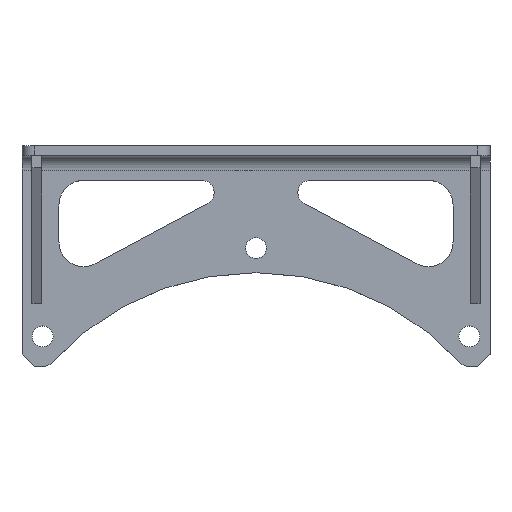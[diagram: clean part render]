
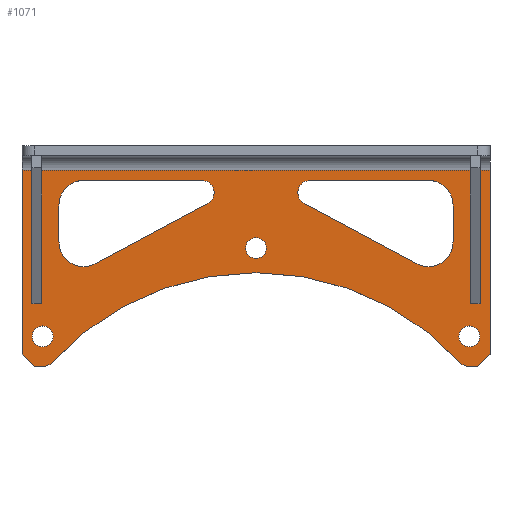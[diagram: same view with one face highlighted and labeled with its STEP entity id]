
A CAD part, top view. The second image highlights one B-rep face of the part: STEP entity #1071.
In plain terms, the highlighted planar face has unit normal (0, 0, 1).
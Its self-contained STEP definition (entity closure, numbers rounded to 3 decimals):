
#148=FACE_BOUND('',#257,.T.);
#149=FACE_BOUND('',#258,.T.);
#150=FACE_BOUND('',#259,.T.);
#151=FACE_BOUND('',#260,.T.);
#152=FACE_BOUND('',#261,.T.);
#159=PLANE('',#1167);
#198=FACE_OUTER_BOUND('',#256,.T.);
#256=EDGE_LOOP('',(#838,#839,#840,#841,#842,#843,#844,#845,#846,#847));
#257=EDGE_LOOP('',(#848,#849,#850,#851,#852,#853));
#258=EDGE_LOOP('',(#854,#855,#856,#857,#858,#859));
#259=EDGE_LOOP('',(#860));
#260=EDGE_LOOP('',(#861));
#261=EDGE_LOOP('',(#862));
#320=LINE('',#1586,#423);
#334=LINE('',#1636,#437);
#335=LINE('',#1640,#438);
#336=LINE('',#1642,#439);
#337=LINE('',#1644,#440);
#338=LINE('',#1648,#441);
#339=LINE('',#1650,#442);
#340=LINE('',#1652,#443);
#341=LINE('',#1653,#444);
#342=LINE('',#1656,#445);
#343=LINE('',#1660,#446);
#344=LINE('',#1664,#447);
#345=LINE('',#1670,#448);
#346=LINE('',#1674,#449);
#347=LINE('',#1677,#450);
#423=VECTOR('',#1281,10.);
#437=VECTOR('',#1321,10.);
#438=VECTOR('',#1326,10.);
#439=VECTOR('',#1327,10.);
#440=VECTOR('',#1328,10.);
#441=VECTOR('',#1331,10.);
#442=VECTOR('',#1332,10.);
#443=VECTOR('',#1333,10.);
#444=VECTOR('',#1334,10.);
#445=VECTOR('',#1335,10.);
#446=VECTOR('',#1338,10.);
#447=VECTOR('',#1341,10.);
#448=VECTOR('',#1346,10.);
#449=VECTOR('',#1349,10.);
#450=VECTOR('',#1352,10.);
#532=CIRCLE('',#1168,112.5);
#533=CIRCLE('',#1169,5.);
#534=CIRCLE('',#1170,10.);
#535=CIRCLE('',#1171,10.);
#536=CIRCLE('',#1172,10.);
#537=CIRCLE('',#1173,5.);
#538=CIRCLE('',#1174,10.);
#539=CIRCLE('',#1175,4.25);
#540=CIRCLE('',#1176,4.25);
#541=CIRCLE('',#1177,4.25);
#569=VERTEX_POINT('',#1583);
#570=VERTEX_POINT('',#1585);
#593=VERTEX_POINT('',#1635);
#594=VERTEX_POINT('',#1639);
#595=VERTEX_POINT('',#1641);
#596=VERTEX_POINT('',#1643);
#597=VERTEX_POINT('',#1645);
#598=VERTEX_POINT('',#1647);
#599=VERTEX_POINT('',#1649);
#600=VERTEX_POINT('',#1651);
#601=VERTEX_POINT('',#1654);
#602=VERTEX_POINT('',#1655);
#603=VERTEX_POINT('',#1657);
#604=VERTEX_POINT('',#1659);
#605=VERTEX_POINT('',#1661);
#606=VERTEX_POINT('',#1663);
#607=VERTEX_POINT('',#1666);
#608=VERTEX_POINT('',#1667);
#609=VERTEX_POINT('',#1669);
#610=VERTEX_POINT('',#1671);
#611=VERTEX_POINT('',#1673);
#612=VERTEX_POINT('',#1675);
#613=VERTEX_POINT('',#1678);
#614=VERTEX_POINT('',#1680);
#615=VERTEX_POINT('',#1682);
#664=EDGE_CURVE('',#569,#570,#320,.T.);
#689=EDGE_CURVE('',#570,#593,#334,.T.);
#691=EDGE_CURVE('',#594,#569,#335,.T.);
#692=EDGE_CURVE('',#594,#595,#336,.T.);
#693=EDGE_CURVE('',#596,#595,#337,.T.);
#694=EDGE_CURVE('',#596,#597,#532,.T.);
#695=EDGE_CURVE('',#598,#597,#338,.T.);
#696=EDGE_CURVE('',#598,#599,#339,.T.);
#697=EDGE_CURVE('',#600,#599,#340,.T.);
#698=EDGE_CURVE('',#593,#600,#341,.T.);
#699=EDGE_CURVE('',#601,#602,#342,.T.);
#700=EDGE_CURVE('',#602,#603,#533,.T.);
#701=EDGE_CURVE('',#603,#604,#343,.T.);
#702=EDGE_CURVE('',#604,#605,#534,.T.);
#703=EDGE_CURVE('',#605,#606,#344,.T.);
#704=EDGE_CURVE('',#606,#601,#535,.T.);
#705=EDGE_CURVE('',#607,#608,#536,.T.);
#706=EDGE_CURVE('',#608,#609,#345,.T.);
#707=EDGE_CURVE('',#609,#610,#537,.T.);
#708=EDGE_CURVE('',#610,#611,#346,.T.);
#709=EDGE_CURVE('',#611,#612,#538,.T.);
#710=EDGE_CURVE('',#612,#607,#347,.T.);
#711=EDGE_CURVE('',#613,#613,#539,.T.);
#712=EDGE_CURVE('',#614,#614,#540,.T.);
#713=EDGE_CURVE('',#615,#615,#541,.T.);
#838=ORIENTED_EDGE('',*,*,#689,.F.);
#839=ORIENTED_EDGE('',*,*,#664,.F.);
#840=ORIENTED_EDGE('',*,*,#691,.F.);
#841=ORIENTED_EDGE('',*,*,#692,.T.);
#842=ORIENTED_EDGE('',*,*,#693,.F.);
#843=ORIENTED_EDGE('',*,*,#694,.T.);
#844=ORIENTED_EDGE('',*,*,#695,.F.);
#845=ORIENTED_EDGE('',*,*,#696,.T.);
#846=ORIENTED_EDGE('',*,*,#697,.F.);
#847=ORIENTED_EDGE('',*,*,#698,.F.);
#848=ORIENTED_EDGE('',*,*,#699,.T.);
#849=ORIENTED_EDGE('',*,*,#700,.T.);
#850=ORIENTED_EDGE('',*,*,#701,.T.);
#851=ORIENTED_EDGE('',*,*,#702,.T.);
#852=ORIENTED_EDGE('',*,*,#703,.T.);
#853=ORIENTED_EDGE('',*,*,#704,.T.);
#854=ORIENTED_EDGE('',*,*,#705,.T.);
#855=ORIENTED_EDGE('',*,*,#706,.T.);
#856=ORIENTED_EDGE('',*,*,#707,.T.);
#857=ORIENTED_EDGE('',*,*,#708,.T.);
#858=ORIENTED_EDGE('',*,*,#709,.T.);
#859=ORIENTED_EDGE('',*,*,#710,.T.);
#860=ORIENTED_EDGE('',*,*,#711,.T.);
#861=ORIENTED_EDGE('',*,*,#712,.T.);
#862=ORIENTED_EDGE('',*,*,#713,.T.);
#1071=ADVANCED_FACE('',(#198,#148,#149,#150,#151,#152),#159,.T.);
#1167=AXIS2_PLACEMENT_3D('',#1638,#1324,#1325);
#1168=AXIS2_PLACEMENT_3D('',#1646,#1329,#1330);
#1169=AXIS2_PLACEMENT_3D('',#1658,#1336,#1337);
#1170=AXIS2_PLACEMENT_3D('',#1662,#1339,#1340);
#1171=AXIS2_PLACEMENT_3D('',#1665,#1342,#1343);
#1172=AXIS2_PLACEMENT_3D('',#1668,#1344,#1345);
#1173=AXIS2_PLACEMENT_3D('',#1672,#1347,#1348);
#1174=AXIS2_PLACEMENT_3D('',#1676,#1350,#1351);
#1175=AXIS2_PLACEMENT_3D('',#1679,#1353,#1354);
#1176=AXIS2_PLACEMENT_3D('',#1681,#1355,#1356);
#1177=AXIS2_PLACEMENT_3D('',#1683,#1357,#1358);
#1281=DIRECTION('',(0.,1.,0.));
#1321=DIRECTION('',(1.,0.,0.));
#1324=DIRECTION('center_axis',(0.,0.,1.));
#1325=DIRECTION('ref_axis',(0.,-1.,0.));
#1326=DIRECTION('',(-0.707,0.707,0.));
#1327=DIRECTION('',(1.,0.,0.));
#1328=DIRECTION('',(-0.913,-0.409,0.));
#1329=DIRECTION('center_axis',(0.,0.,-1.));
#1330=DIRECTION('ref_axis',(-0.749,0.662,0.));
#1331=DIRECTION('',(-0.913,0.409,0.));
#1332=DIRECTION('',(1.,0.,0.));
#1333=DIRECTION('',(-0.707,-0.707,0.));
#1334=DIRECTION('',(0.,-1.,0.));
#1335=DIRECTION('',(1.,0.,0.));
#1336=DIRECTION('center_axis',(0.,0.,-1.));
#1337=DIRECTION('ref_axis',(0.,1.,0.));
#1338=DIRECTION('',(-0.882,-0.472,0.));
#1339=DIRECTION('center_axis',(0.,0.,-1.));
#1340=DIRECTION('ref_axis',(0.472,-0.882,0.));
#1341=DIRECTION('',(0.,1.,0.));
#1342=DIRECTION('center_axis',(0.,0.,-1.));
#1343=DIRECTION('ref_axis',(-1.,0.,0.));
#1344=DIRECTION('center_axis',(0.,0.,-1.));
#1345=DIRECTION('ref_axis',(1.,0.,0.));
#1346=DIRECTION('',(-0.882,0.472,0.));
#1347=DIRECTION('center_axis',(0.,0.,-1.));
#1348=DIRECTION('ref_axis',(-0.472,-0.882,0.));
#1349=DIRECTION('',(1.,0.,0.));
#1350=DIRECTION('center_axis',(0.,0.,-1.));
#1351=DIRECTION('ref_axis',(0.,1.,0.));
#1352=DIRECTION('',(0.,-1.,0.));
#1353=DIRECTION('center_axis',(0.,0.,-1.));
#1354=DIRECTION('ref_axis',(-1.,0.,0.));
#1355=DIRECTION('center_axis',(0.,0.,-1.));
#1356=DIRECTION('ref_axis',(-1.,0.,0.));
#1357=DIRECTION('center_axis',(0.,0.,-1.));
#1358=DIRECTION('ref_axis',(-1.,0.,0.));
#1583=CARTESIAN_POINT('',(-95.,-80.5,4.));
#1585=CARTESIAN_POINT('',(-95.,-6.,4.));
#1586=CARTESIAN_POINT('',(-95.,0.,4.));
#1635=CARTESIAN_POINT('',(95.,-6.,4.));
#1636=CARTESIAN_POINT('',(0.,-6.,4.));
#1638=CARTESIAN_POINT('Origin',(0.,0.,4.));
#1639=CARTESIAN_POINT('',(-90.,-85.5,4.));
#1640=CARTESIAN_POINT('',(-90.125,-85.375,4.));
#1641=CARTESIAN_POINT('',(-85.297,-85.5,4.));
#1642=CARTESIAN_POINT('',(-42.149,-85.5,4.));
#1643=CARTESIAN_POINT('',(-83.632,-84.754,4.));
#1644=CARTESIAN_POINT('',(-33.411,-62.249,4.));
#1645=CARTESIAN_POINT('',(83.632,-84.754,4.));
#1646=CARTESIAN_POINT('Origin',(0.,-160.,4.));
#1647=CARTESIAN_POINT('',(85.297,-85.5,4.));
#1648=CARTESIAN_POINT('',(33.411,-62.249,4.));
#1649=CARTESIAN_POINT('',(90.,-85.5,4.));
#1650=CARTESIAN_POINT('',(47.5,-85.5,4.));
#1651=CARTESIAN_POINT('',(95.,-80.5,4.));
#1652=CARTESIAN_POINT('',(90.125,-85.375,4.));
#1653=CARTESIAN_POINT('',(95.,0.,4.));
#1654=CARTESIAN_POINT('',(-70.,-10.,4.));
#1655=CARTESIAN_POINT('',(-22.,-10.,4.));
#1656=CARTESIAN_POINT('',(-11.,-10.,4.));
#1657=CARTESIAN_POINT('',(-19.642,-19.409,4.));
#1658=CARTESIAN_POINT('Origin',(-22.,-15.,4.));
#1659=CARTESIAN_POINT('',(-65.284,-43.818,4.));
#1660=CARTESIAN_POINT('',(-30.791,-25.371,4.));
#1661=CARTESIAN_POINT('',(-80.,-35.,4.));
#1662=CARTESIAN_POINT('Origin',(-70.,-35.,4.));
#1663=CARTESIAN_POINT('',(-80.,-20.,4.));
#1664=CARTESIAN_POINT('',(-80.,-10.,4.));
#1665=CARTESIAN_POINT('Origin',(-70.,-20.,4.));
#1666=CARTESIAN_POINT('',(80.,-35.,4.));
#1667=CARTESIAN_POINT('',(65.284,-43.818,4.));
#1668=CARTESIAN_POINT('Origin',(70.,-35.,4.));
#1669=CARTESIAN_POINT('',(19.642,-19.409,4.));
#1670=CARTESIAN_POINT('',(7.969,-13.167,4.));
#1671=CARTESIAN_POINT('',(22.,-10.,4.));
#1672=CARTESIAN_POINT('Origin',(22.,-15.,4.));
#1673=CARTESIAN_POINT('',(70.,-10.,4.));
#1674=CARTESIAN_POINT('',(35.,-10.,4.));
#1675=CARTESIAN_POINT('',(80.,-20.,4.));
#1676=CARTESIAN_POINT('Origin',(70.,-20.,4.));
#1677=CARTESIAN_POINT('',(80.,-17.5,4.));
#1678=CARTESIAN_POINT('',(4.25,-37.5,4.));
#1679=CARTESIAN_POINT('Origin',(0.,-37.5,4.));
#1680=CARTESIAN_POINT('',(90.871,-73.379,4.));
#1681=CARTESIAN_POINT('Origin',(86.621,-73.379,4.));
#1682=CARTESIAN_POINT('',(-82.371,-73.379,4.));
#1683=CARTESIAN_POINT('Origin',(-86.621,-73.379,4.));
